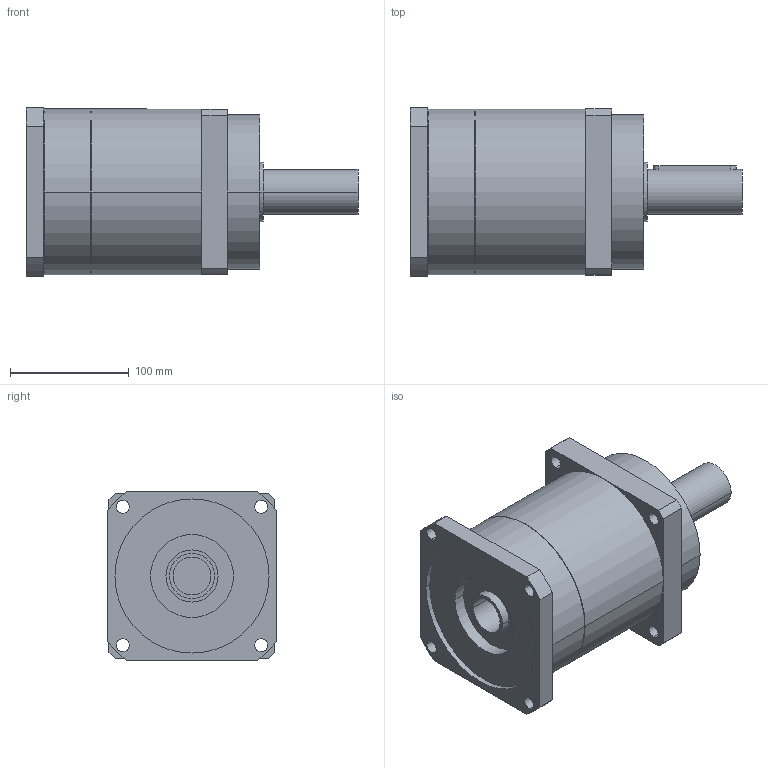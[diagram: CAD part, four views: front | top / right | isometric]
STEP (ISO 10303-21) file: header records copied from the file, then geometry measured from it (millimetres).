
FILE_DESCRIPTION(('CoCreate Modeling STEP Export'),'2;1');
FILE_NAME('GPR150_ig-3-4-5-7_38_B5_32_P05.stp','2014-08-19T16:42:57',(''),(''),'CoCreate Modeling STEP processor for AP214 (Solid Model)','CoCreate Modeling 16.00C 25-Feb-2009 (C) Parametric Technology GmbH','');
FILE_SCHEMA(('AUTOMOTIVE_DESIGN { 1 0 10303 214 1 1 1 1 }'));
Length unit declared in the file: millimetre
Products named in the file (2): GPR150_ig-3-4-5-7_38_B5_32_P05
Assembly tree (1 placements, depth 2):
  GPR150_ig-3-4-5-7_38_B5_32_P05
    GPR150_ig-3-4-5-7_38_B5_32_P05
Bounding box: 280 x 142 x 142 mm (x, y, z)
Volume: 3061410.7 mm3; surface area: 165048 mm2
Topology: 1 solids, 1 shells, 81 faces, 220 edges, 150 vertices
Faces by surface type: cylinder 48, plane 27, cone 6
Entity records: 2325 total; most frequent: ORIENTED_EDGE 436, CARTESIAN_POINT 431, DIRECTION 330, EDGE_CURVE 218, VERTEX_POINT 150, AXIS2_PLACEMENT_3D 121, EDGE_LOOP 108, VECTOR 88
